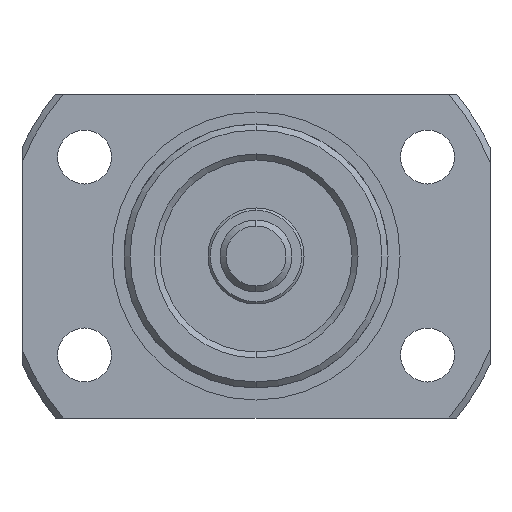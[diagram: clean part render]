
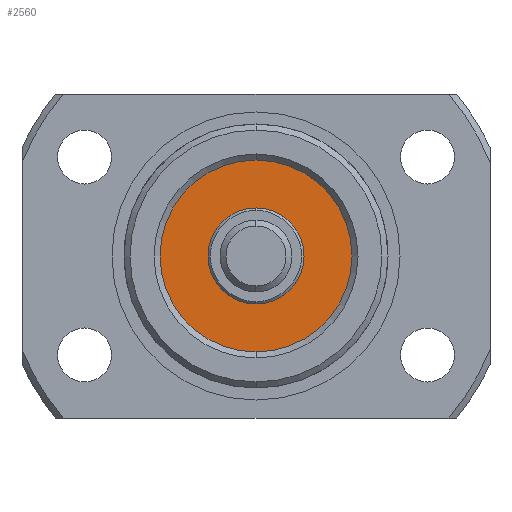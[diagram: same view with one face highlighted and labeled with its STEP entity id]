
A CAD part, left-side view. The second image highlights one B-rep face of the part: STEP entity #2560.
In plain terms, the highlighted planar face has unit normal (-1, 0, 0).
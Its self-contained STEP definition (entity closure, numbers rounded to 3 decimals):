
#1319 = DIRECTION ( 'NONE',  ( 0., 0., 1. ) ) ;
#1320 = DIRECTION ( 'NONE',  ( -1., 0., 0. ) ) ;
#1321 = CARTESIAN_POINT ( 'NONE',  ( -35.5, 0., 0. ) ) ;
#1336 = DIRECTION ( 'NONE',  ( 0., 0., 1. ) ) ;
#1337 = DIRECTION ( 'NONE',  ( -1., 0., 0. ) ) ;
#1338 = CARTESIAN_POINT ( 'NONE',  ( -35.5, 0., 0. ) ) ;
#1421 = DIRECTION ( 'NONE',  ( 0., 0., 1. ) ) ;
#1422 = DIRECTION ( 'NONE',  ( -1., 0., 0. ) ) ;
#1423 = CARTESIAN_POINT ( 'NONE',  ( -35.5, 0., 0. ) ) ;
#1738 = FACE_BOUND ( 'NONE', #5744, .T. ) ;
#1749 = FACE_OUTER_BOUND ( 'NONE', #5741, .T. ) ;
#1883 = VERTEX_POINT ( 'NONE', #2925 ) ;
#1885 = VERTEX_POINT ( 'NONE', #2919 ) ;
#1887 = VERTEX_POINT ( 'NONE', #2636 ) ;
#1939 = VERTEX_POINT ( 'NONE', #2883 ) ;
#2013 = CIRCLE ( 'NONE', #4138, 4. ) ;
#2024 = CIRCLE ( 'NONE', #4139, 8. ) ;
#2154 = ORIENTED_EDGE ( 'NONE', *, *, #4058, .F. ) ;
#2201 = ORIENTED_EDGE ( 'NONE', *, *, #4032, .T. ) ;
#2211 = ORIENTED_EDGE ( 'NONE', *, *, #4063, .T. ) ;
#2216 = ORIENTED_EDGE ( 'NONE', *, *, #3945, .F. ) ;
#2347 = CIRCLE ( 'NONE', #4946, 8. ) ;
#2351 = CIRCLE ( 'NONE', #4905, 4. ) ;
#2560 = ADVANCED_FACE ( 'NONE', ( #1738, #1749 ), #4597, .T. ) ;
#2636 = CARTESIAN_POINT ( 'NONE',  ( -35.5, 0., 4. ) ) ;
#2883 = CARTESIAN_POINT ( 'NONE',  ( -35.5, 0., -8. ) ) ;
#2919 = CARTESIAN_POINT ( 'NONE',  ( -35.5, 0., 8. ) ) ;
#2925 = CARTESIAN_POINT ( 'NONE',  ( -35.5, 0., -4. ) ) ;
#3307 = DIRECTION ( 'NONE',  ( 0., 0., 1. ) ) ;
#3308 = DIRECTION ( 'NONE',  ( -1., 0., 0. ) ) ;
#3315 = CARTESIAN_POINT ( 'NONE',  ( -35.5, 0., 0. ) ) ;
#3945 = EDGE_CURVE ( 'NONE', #1883, #1887, #2351, .T. ) ;
#4032 = EDGE_CURVE ( 'NONE', #1885, #1939, #2347, .T. ) ;
#4058 = EDGE_CURVE ( 'NONE', #1887, #1883, #2013, .T. ) ;
#4063 = EDGE_CURVE ( 'NONE', #1939, #1885, #2024, .T. ) ;
#4138 = AXIS2_PLACEMENT_3D ( 'NONE', #1338, #1337, #1336 ) ;
#4139 = AXIS2_PLACEMENT_3D ( 'NONE', #1321, #1320, #1319 ) ;
#4594 = DIRECTION ( 'NONE',  ( -1., 0., 0. ) ) ;
#4595 = CARTESIAN_POINT ( 'NONE',  ( -35.5, 0., 0. ) ) ;
#4597 = PLANE ( 'NONE',  #4791 ) ;
#4599 = DIRECTION ( 'NONE',  ( 0., 0., 1. ) ) ;
#4791 = AXIS2_PLACEMENT_3D ( 'NONE', #4595, #4594, #4599 ) ;
#4905 = AXIS2_PLACEMENT_3D ( 'NONE', #3315, #3308, #3307 ) ;
#4946 = AXIS2_PLACEMENT_3D ( 'NONE', #1423, #1422, #1421 ) ;
#5741 = EDGE_LOOP ( 'NONE', ( #2211, #2201 ) ) ;
#5744 = EDGE_LOOP ( 'NONE', ( #2216, #2154 ) ) ;
